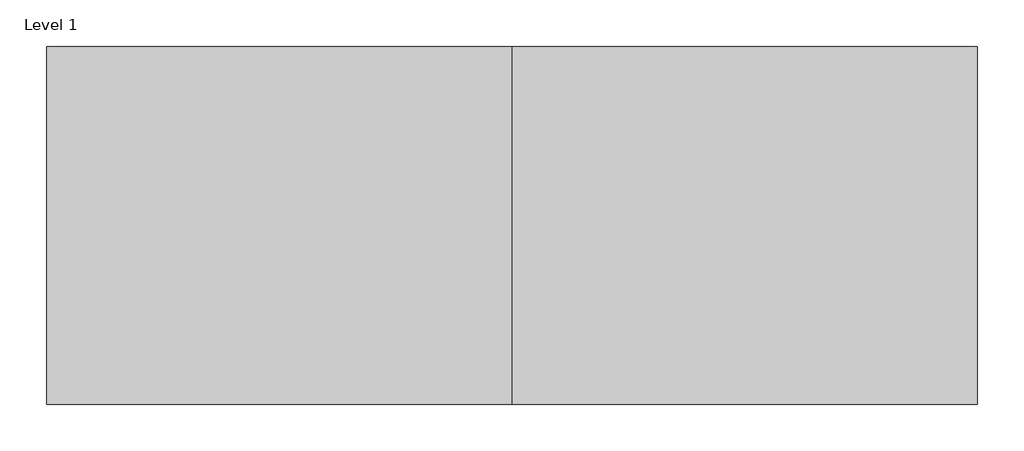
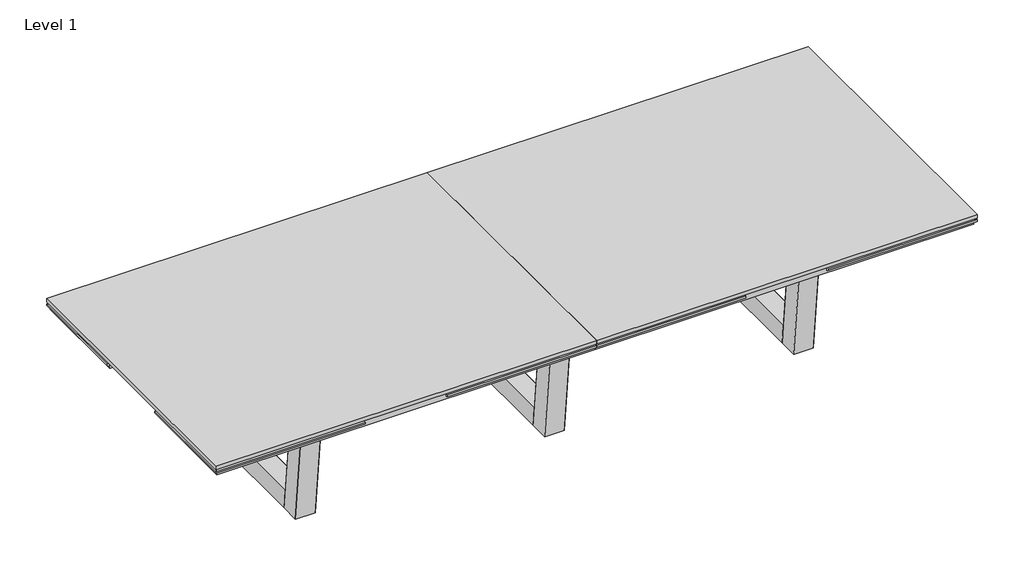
# One storey, incomplete: 14 proxies.
"""IFC4 building model written with IfcOpenShell, lengths in millimetres."""

from ifc_helpers import new_model, si_unit, origin, place, context, project, spatial, transform, mapped, element, save
from components import generic_models_c5cf19e4, generic_models_a65e8204, generic_models_bcc925be, generic_models_b9621f19, generic_models_6bebf737, generic_models_06f029d5

model = new_model("IFC4")

# Units and contexts
model_context = context("Model", 3, world=origin())
ifc_project = project(units=[si_unit("LENGTHUNIT", "METRE", prefix="MILLI")], contexts=[model_context])

# Site, building, storey
site = spatial("IfcSite", under=ifc_project)
building = spatial("IfcBuilding", under=site)
storey = spatial("IfcBuildingStorey", under=building, Name="Level 1", Elevation=0.0)

# Proxies
placement = place(None, origin())
generic_models_shape = generic_models_c5cf19e4(model_context)
element("IfcBuildingElementProxy", 1, Name="IMPRESS^TABLE 6_4 PC TOP PWR DRAWERS-CORNER SUPPORT BRACKET", ObjectType="IMPRESS^TABLE 6_4 PC TOP PWR DRAWERS-CORNER SUPPORT BRACKET", at=placement, inside=storey, context=model_context, shape_type="MappedRepresentation", body=[
    mapped(generic_models_shape, transform((635.0, -939.8, -101.6), x_axis=(0.0, 1.0, 0.0), y_axis=(0.0, 0.0, 1.0), z_axis=(1.0, 0.0, 0.0))),
])
element("IfcBuildingElementProxy", 2, Name="IMPRESS^TABLE 6_4 PC TOP PWR DRAWERS-CORNER SUPPORT BRACKET", ObjectType="IMPRESS^TABLE 6_4 PC TOP PWR DRAWERS-CORNER SUPPORT BRACKET", at=placement, inside=storey, context=model_context, shape_type="MappedRepresentation", body=[
    mapped(generic_models_shape, transform((3327.4, -584.2, -101.6), x_axis=(0.0, -1.0, 0.0), y_axis=(0.0, 0.0, 1.0), z_axis=(-1.0, 0.0, 0.0))),
])
generic_models_2_shape = generic_models_a65e8204(model_context)
element("IfcBuildingElementProxy", 3, Name="IMPRESS^TABLE 4_2 PC TOP PWR DRAWERS-END KEEL", ObjectType="IMPRESS^TABLE 4_2 PC TOP PWR DRAWERS-END KEEL", at=placement, inside=storey, context=model_context, shape_type="MappedRepresentation", body=[
    mapped(generic_models_2_shape, transform((635.0, -1112.9208433, 0.0), x_axis=(0.0, 1.0, 0.0), y_axis=(0.0, 0.0, 1.0), z_axis=(1.0, 0.0, 0.0))),
])
element("IfcBuildingElementProxy", 4, Name="IMPRESS^TABLE 4_2 PC TOP PWR DRAWERS-END KEEL", ObjectType="IMPRESS^TABLE 4_2 PC TOP PWR DRAWERS-END KEEL", at=placement, inside=storey, context=model_context, shape_type="MappedRepresentation", body=[
    mapped(generic_models_2_shape, transform((3308.35, -1112.9208433, 0.0), x_axis=(0.0, 1.0, 0.0), y_axis=(0.0, 0.0, 1.0), z_axis=(1.0, 0.0, 0.0))),
])
generic_models_3_shape = generic_models_bcc925be(model_context)
element("IfcBuildingElementProxy", 5, Name="IMPRESS^TABLE 4_2 PC TOP PWR DRAWERS-RT SIDE KEEL", ObjectType="IMPRESS^TABLE 4_2 PC TOP PWR DRAWERS-RT SIDE KEEL", at=placement, inside=storey, context=model_context, shape_type="MappedRepresentation", body=[
    mapped(generic_models_3_shape, transform((717.55, -469.9, -101.6), x_axis=(1.0, 0.0, 0.0), y_axis=(0.0, 0.0, 1.0), z_axis=(0.0, -1.0, 0.0))),
])
element("IfcBuildingElementProxy", 6, Name="IMPRESS^TABLE 4_2 PC TOP PWR DRAWERS-RT SIDE KEEL", ObjectType="IMPRESS^TABLE 4_2 PC TOP PWR DRAWERS-RT SIDE KEEL", at=placement, inside=storey, context=model_context, shape_type="MappedRepresentation", body=[
    mapped(generic_models_3_shape, transform((3244.85, -1054.1, -101.6), x_axis=(-1.0, 0.0, 0.0), y_axis=(0.0, 0.0, 1.0), z_axis=(0.0, 1.0, 0.0))),
])
generic_models_4_shape = generic_models_b9621f19(model_context)
element("IfcBuildingElementProxy", 7, Name="IMPRESS^TABLE 4_BASE METAL-TOP FRAME", ObjectType="IMPRESS^TABLE 4_BASE METAL-TOP FRAME", at=placement, inside=storey, context=model_context, shape_type="MappedRepresentation", body=[
    mapped(generic_models_4_shape, transform((1676.4, -1022.35, -50.8), x_axis=(1.0, 0.0, 0.0), y_axis=(0.0, 0.0, 1.0), z_axis=(0.0, -1.0, 0.0))),
])
element("IfcBuildingElementProxy", 8, Name="IMPRESS^TABLE 4_BASE METAL-TOP FRAME", ObjectType="IMPRESS^TABLE 4_BASE METAL-TOP FRAME", at=placement, inside=storey, context=model_context, shape_type="MappedRepresentation", body=[
    mapped(generic_models_4_shape, transform((2286.0, -501.65, -50.8), x_axis=(-1.0, 0.0, 0.0), y_axis=(0.0, 0.0, 1.0), z_axis=(0.0, 1.0, 0.0))),
])
element("IfcBuildingElementProxy", 9, Name="IMPRESS^TABLE 4_2 PC TOP PWR DRAWERS-LT SIDE KEEL", ObjectType="IMPRESS^TABLE 4_2 PC TOP PWR DRAWERS-LT SIDE KEEL", at=placement, inside=storey, context=model_context, shape_type="MappedRepresentation", body=[
    mapped(generic_models_3_shape, transform((1949.45, -1054.1, -101.6), x_axis=(-1.0, 0.0, 0.0), y_axis=(0.0, 0.0, 1.0), z_axis=(0.0, 1.0, 0.0))),
])
element("IfcBuildingElementProxy", 10, Name="IMPRESS^TABLE 4_2 PC TOP PWR DRAWERS-LT SIDE KEEL", ObjectType="IMPRESS^TABLE 4_2 PC TOP PWR DRAWERS-LT SIDE KEEL", at=placement, inside=storey, context=model_context, shape_type="MappedRepresentation", body=[
    mapped(generic_models_3_shape, transform((2012.95, -469.9, -101.6), x_axis=(1.0, 0.0, 0.0), y_axis=(0.0, 0.0, 1.0), z_axis=(0.0, -1.0, 0.0))),
])
generic_models_5_shape = generic_models_6bebf737(model_context)
element("IfcBuildingElementProxy", 11, Name="IMPRESS^TABLE 2_30in BASE_TABLE BASE ASSY 48X28X501", ObjectType="IMPRESS^TABLE 2_30in BASE_TABLE BASE ASSY 48X28X501", at=placement, inside=storey, context=model_context, shape_type="MappedRepresentation", body=[
    mapped(generic_models_5_shape, transform((685.8, -762.0, -685.8), x_axis=(0.0, 1.0, 0.0), y_axis=(0.0, 0.0, 1.0), z_axis=(1.0, 0.0, 0.0))),
])
element("IfcBuildingElementProxy", 12, Name="IMPRESS^TABLE 2_30in BASE_TABLE BASE ASSY 48X28X501", ObjectType="IMPRESS^TABLE 2_30in BASE_TABLE BASE ASSY 48X28X501", at=placement, inside=storey, context=model_context, shape_type="MappedRepresentation", body=[
    mapped(generic_models_5_shape, transform((3276.6, -762.0, -685.8), x_axis=(0.0, -1.0, 0.0), y_axis=(0.0, 0.0, 1.0), z_axis=(-1.0, 0.0, 0.0))),
])
element("IfcBuildingElementProxy", 13, Name="IMPRESS^TABLE 2_30in BASE_TABLE BASE ASSY 48X28X501", ObjectType="IMPRESS^TABLE 2_30in BASE_TABLE BASE ASSY 48X28X501", at=placement, inside=storey, context=model_context, shape_type="MappedRepresentation", body=[
    mapped(generic_models_5_shape, transform((1981.2, -762.0, -685.8), x_axis=(0.0, 1.0, 0.0), y_axis=(0.0, 0.0, 1.0), z_axis=(1.0, 0.0, 0.0))),
])
generic_models_6_shape = generic_models_06f029d5(model_context)
element("IfcBuildingElementProxy", 14, Name="IMPRESS^TABLE 4_2 PC TOP PWR DRAWERS-TOP PARTS SOLID", ObjectType="IMPRESS^TABLE 4_2 PC TOP PWR DRAWERS-TOP PARTS SOLID", at=placement, inside=storey, context=model_context, shape_type="MappedRepresentation", body=[
    mapped(generic_models_6_shape, transform((0.0, -1524.0, 38.1), x_axis=(1.0, 0.0, 0.0), y_axis=(0.0, 0.0, 1.0), z_axis=(0.0, -1.0, 0.0))),
])

save(model, "model.ifc")
